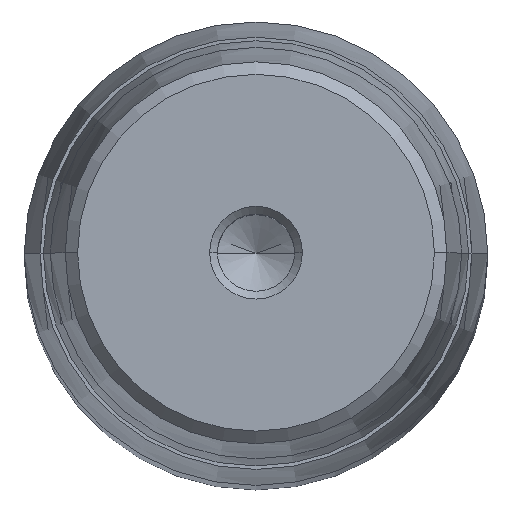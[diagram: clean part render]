
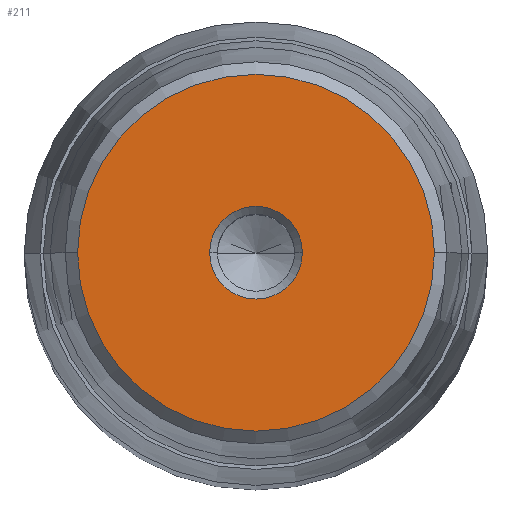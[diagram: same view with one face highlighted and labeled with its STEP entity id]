
A CAD part, top view. The second image highlights one B-rep face of the part: STEP entity #211.
In plain terms, the highlighted planar face has unit normal (0, 0, 1).
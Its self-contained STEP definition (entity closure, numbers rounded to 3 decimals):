
#136=CARTESIAN_POINT('Axis2P3D Location',(0.,0.,48.)) ;
#140=CARTESIAN_POINT('Vertex',(-4.,0.,48.)) ;
#142=CARTESIAN_POINT('Vertex',(4.,0.,48.)) ;
#179=CARTESIAN_POINT('Axis2P3D Location',(0.,4.,48.)) ;
#184=CARTESIAN_POINT('Axis2P3D Location',(0.,0.,48.)) ;
#188=CARTESIAN_POINT('Vertex',(-15.4,0.,48.)) ;
#190=CARTESIAN_POINT('Vertex',(15.4,0.,48.)) ;
#193=CARTESIAN_POINT('Axis2P3D Location',(0.,0.,48.)) ;
#202=CARTESIAN_POINT('Axis2P3D Location',(0.,0.,48.)) ;
#137=DIRECTION('Axis2P3D Direction',(0.,-0.,1.)) ;
#180=DIRECTION('Axis2P3D Direction',(0.,0.,-1.)) ;
#181=DIRECTION('Axis2P3D XDirection',(-1.,0.,0.)) ;
#185=DIRECTION('Axis2P3D Direction',(0.,0.,-1.)) ;
#194=DIRECTION('Axis2P3D Direction',(0.,0.,-1.)) ;
#203=DIRECTION('Axis2P3D Direction',(0.,0.,-1.)) ;
#138=AXIS2_PLACEMENT_3D('Circle Axis2P3D',#136,#137,$) ;
#182=AXIS2_PLACEMENT_3D('Plane Axis2P3D',#179,#180,#181) ;
#186=AXIS2_PLACEMENT_3D('Circle Axis2P3D',#184,#185,$) ;
#195=AXIS2_PLACEMENT_3D('Circle Axis2P3D',#193,#194,$) ;
#204=AXIS2_PLACEMENT_3D('Circle Axis2P3D',#202,#203,$) ;
#199=ORIENTED_EDGE('',*,*,#192,.F.) ;
#200=ORIENTED_EDGE('',*,*,#197,.F.) ;
#208=ORIENTED_EDGE('',*,*,#206,.T.) ;
#209=ORIENTED_EDGE('',*,*,#144,.T.) ;
#210=FACE_BOUND('',#207,.T.) ;
#211=ADVANCED_FACE('722-40x250x283',(#201,#210),#183,.F.) ;
#139=CIRCLE('generated circle',#138,4.) ;
#187=CIRCLE('generated circle',#186,15.4) ;
#196=CIRCLE('generated circle',#195,15.4) ;
#205=CIRCLE('generated circle',#204,4.) ;
#144=EDGE_CURVE('',#141,#143,#139,.F.) ;
#192=EDGE_CURVE('',#189,#191,#187,.T.) ;
#197=EDGE_CURVE('',#191,#189,#196,.T.) ;
#206=EDGE_CURVE('',#143,#141,#205,.T.) ;
#198=EDGE_LOOP('',(#199,#200)) ;
#207=EDGE_LOOP('',(#208,#209)) ;
#201=FACE_OUTER_BOUND('',#198,.T.) ;
#183=PLANE('Plane',#182) ;
#141=VERTEX_POINT('',#140) ;
#143=VERTEX_POINT('',#142) ;
#189=VERTEX_POINT('',#188) ;
#191=VERTEX_POINT('',#190) ;
